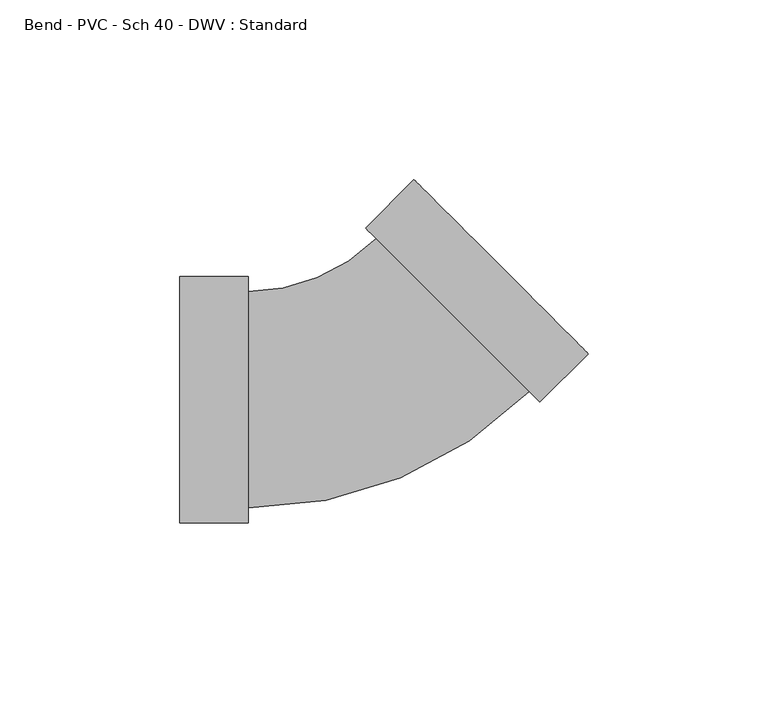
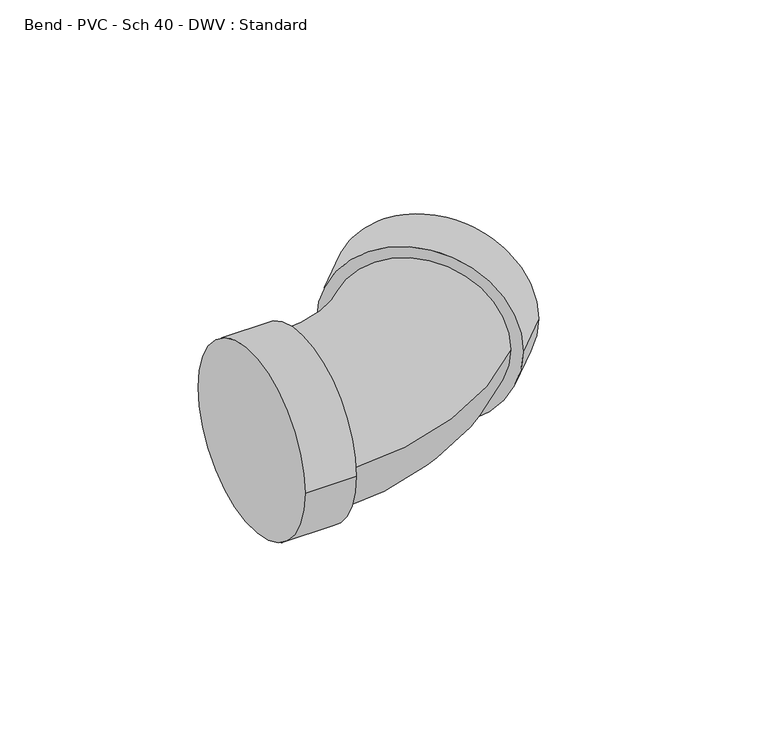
"""IFC4 building model written with IfcOpenShell, lengths in millimetres: pipe fitting geometry, Bend - PVC - Sch 40 - DWV : Standard."""

from ifc_helpers import new_model, si_unit, point, frame, origin, place, context, project, spatial, circle_curve, ellipse_curve, trimmed, source, transform, mapped, element, save
from ifc_brep_helpers import plane_surface, cylinder_surface, revolved_surface, advanced_brep


def bend_pvc_sch_40_dwv_standard_72717ed5(model_context):
    return source(origin(), model_context, "Body", "AdvancedBrep", [
        advanced_brep(
        [(-52.4002, -34.3154, 0.0), (-52.4002, 34.3154, 0.0), (-33.3502, -34.3154, 0.0), (-33.3502, 34.3154, 0.0), (-33.3502, -30.1625, 0.0), (-33.3502, 30.1625, 0.0), (2.2540428, 44.9102609, 0.0), (44.9102608, 2.2540458, 0.0), (47.8468046, -0.6824978, 0.0), (-0.6825011, 47.8468046, 0.0), (61.3171884, 12.7878868, 0.0), (12.7878826, 61.3171892, 0.0)],
        [
            (0, 1, circle_curve(frame((-52.4002, 0.0, 0.0), z_axis=(-1.0, 0.0, 0.0), x_axis=(0.0, 1.0, 0.0)), 34.3154)),
            (1, 0, circle_curve(frame((-52.4002, 0.0, 0.0), z_axis=(-1.0, 0.0, 0.0), x_axis=(0.0, 1.0, 0.0)), 34.3154)),
            (2, 3, circle_curve(frame((-33.3502, 0.0, 0.0), z_axis=(1.0, 0.0, 0.0), x_axis=(0.0, 1.0, 0.0)), 34.3154)),
            (3, 2, circle_curve(frame((-33.3502, 0.0, 0.0), z_axis=(1.0, 0.0, 0.0), x_axis=(0.0, 1.0, 0.0)), 34.3154)),
            (4, 5, circle_curve(frame((-33.3502, 0.0, 0.0), z_axis=(-1.0, 0.0, 0.0), x_axis=(0.0, 1.0, 0.0)), 30.1625)),
            (5, 4, circle_curve(frame((-33.3502, 0.0, 0.0), z_axis=(-1.0, 0.0, 0.0), x_axis=(0.0, 1.0, 0.0)), 30.1625)),
            (0, 2),
            (3, 1),
            (6, 5, circle_curve(frame((-33.3502, 80.5145013, 0.0), z_axis=(0.0, 0.0, -1.0), x_axis=(0.0, -1.0, 0.0)), 50.3520013)),
            (4, 7, circle_curve(frame((-33.3502, 80.5145013, 0.0), z_axis=(0.0, 0.0, 1.0), x_axis=(0.0, -1.0, 0.0)), 110.6770013)),
            (7, 6, circle_curve(frame((23.5821518, 23.5821534, 0.0), z_axis=(-0.7071067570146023, -0.7071068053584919, 0.0), x_axis=(-0.7071068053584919, 0.7071067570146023, 0.0)), 30.1625)),
            (6, 7, circle_curve(frame((23.5821518, 23.5821534, 0.0), z_axis=(-0.7071067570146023, -0.7071068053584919, 0.0), x_axis=(-0.7071068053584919, 0.7071067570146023, 0.0)), 30.1625)),
            (8, 9, circle_curve(frame((23.5821518, 23.5821534, 0.0), z_axis=(-0.7071067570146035, -0.7071068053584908, 0.0), x_axis=(-0.7071068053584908, 0.7071067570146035, 0.0)), 34.3154)),
            (9, 8, circle_curve(frame((23.5821518, 23.5821534, 0.0), z_axis=(-0.7071067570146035, -0.7071068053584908, 0.0), x_axis=(-0.7071068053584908, 0.7071067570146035, 0.0)), 34.3154)),
            (10, 11, circle_curve(frame((37.0525355, 37.052538, 0.0), z_axis=(0.7071067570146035, 0.7071068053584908, 0.0), x_axis=(-0.7071068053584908, 0.7071067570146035, 0.0)), 34.3154)),
            (11, 10, circle_curve(frame((37.0525355, 37.052538, 0.0), z_axis=(0.7071067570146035, 0.7071068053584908, 0.0), x_axis=(-0.7071068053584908, 0.7071067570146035, 0.0)), 34.3154)),
            (8, 10),
            (11, 9),
        ],
        [
            plane_surface(frame((-52.4002, 0.0, 0.0), z_axis=(-1.0, 0.0, 0.0), x_axis=(0.0, 0.0, 1.0))),
            plane_surface(frame((-33.3502, 0.0, 0.0), z_axis=(1.0, 0.0, 0.0), x_axis=(0.0, 0.0, 1.0))),
            cylinder_surface(frame((-52.4002, 0.0, 0.0), z_axis=(-1.0, 0.0, 0.0), x_axis=(0.0, 1.0, 0.0)), 34.3154),
            revolved_surface(trimmed(ellipse_curve(frame((-33.3502, 0.0, 0.0), z_axis=(-1.0, 0.0, 0.0), x_axis=(0.0, 1.0, 0.0)), 30.1625, 30.1625), [point((-33.3502, -30.1625, 0.0))], [point((-33.3502, 30.1625, 0.0))], True, "CARTESIAN"), (-33.3502, 80.5145013, 0.0), (0.0, 0.0, 1.0)),
            revolved_surface(trimmed(ellipse_curve(frame((-33.3502, 0.0, 0.0), z_axis=(-1.0, 0.0, 0.0), x_axis=(0.0, 1.0, 0.0)), 30.1625, 30.1625), [point((-33.3502, 30.1625, 0.0))], [point((-33.3502, -30.1625, 0.0))], True, "CARTESIAN"), (-33.3502, 80.5145013, 0.0), (0.0, 0.0, 1.0)),
            plane_surface(frame((23.5821518, 23.5821534, 0.0), z_axis=(-0.7071067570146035, -0.7071068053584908, 0.0), x_axis=(0.0, 0.0, 1.0))),
            plane_surface(frame((37.0525355, 37.052538, 0.0), z_axis=(0.7071067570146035, 0.7071068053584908, 0.0), x_axis=(0.0, 0.0, 1.0))),
            cylinder_surface(frame((23.5821518, 23.5821534, 0.0), z_axis=(-0.7071067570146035, -0.7071068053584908, 0.0), x_axis=(-0.7071068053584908, 0.7071067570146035, 0.0)), 34.3154),
        ],
        [
            (0, [[1, 2]]),
            (1, [[3, 4], [5, 6]]),
            (2, [[-1, 7, -4, 8]]),
            (2, [[-2, -8, -3, -7]]),
            (3, [[9, -5, 10, 11]]),
            (4, [[-9, 12, -10, -6]]),
            (5, [[13, 14], [-11, -12]]),
            (6, [[15, 16]]),
            (7, [[-13, 17, -16, 18]]),
            (7, [[-14, -18, -15, -17]]),
        ],
    ),
    ])


if __name__ == "__main__":
    model = new_model("IFC4")
    model_context = context("Model", 3, world=origin())
    ifc_project = project(units=[si_unit("LENGTHUNIT", "METRE", prefix="MILLI")], contexts=[model_context])
    site = spatial("IfcSite", under=ifc_project)
    building = spatial("IfcBuilding", under=site)
    placement = place(None, origin())
    bend_pvc_sch_40_dwv_standard_shape = bend_pvc_sch_40_dwv_standard_72717ed5(model_context)
    element("IfcPipeFitting", 1, ObjectType="Bend - PVC - Sch 40 - DWV : Standard", at=placement, inside=building, context=model_context, shape_type="MappedRepresentation", body=[
        mapped(bend_pvc_sch_40_dwv_standard_shape, transform((0.0, 0.0, 0.0), x_axis=(1.0, 0.0, 0.0), y_axis=(0.0, 1.0, 0.0), z_axis=(0.0, 0.0, 1.0))),
    ])
    save(model, "model.ifc")
